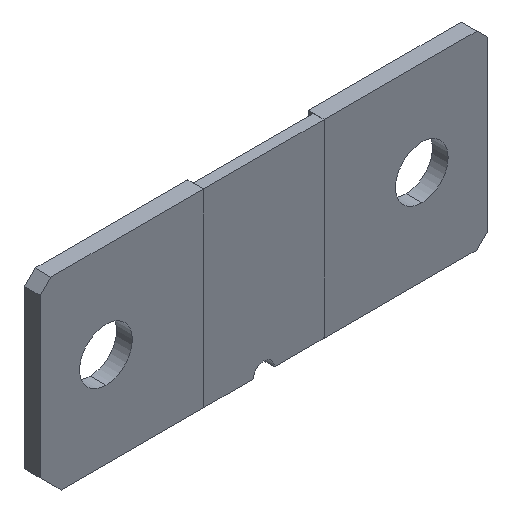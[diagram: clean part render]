
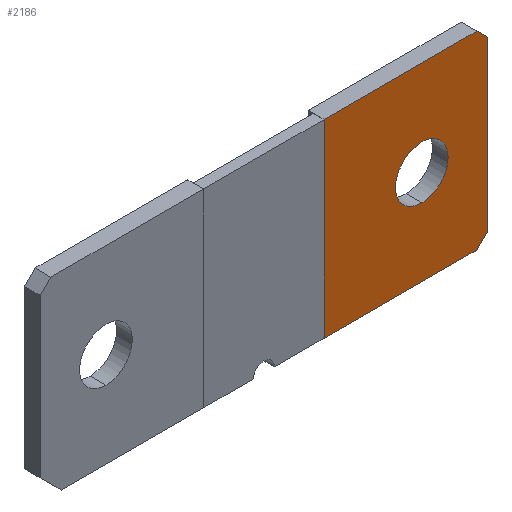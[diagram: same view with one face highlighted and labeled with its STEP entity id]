
A CAD part, isometric view. The second image highlights one B-rep face of the part: STEP entity #2186.
In plain terms, the highlighted planar face has unit normal (0, -1, 0).
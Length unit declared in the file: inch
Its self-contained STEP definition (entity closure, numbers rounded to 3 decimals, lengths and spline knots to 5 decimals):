
#18 = CARTESIAN_POINT ( 'NONE',  ( -0.81274, 0., 0.94989 ) ) ;
#50 = CARTESIAN_POINT ( 'NONE',  ( 0., 0., 0. ) ) ;
#54 = CARTESIAN_POINT ( 'NONE',  ( 0.33126, 0., -0.46711 ) ) ;
#55 = VECTOR ( 'NONE', #367, 39.37008 ) ;
#134 = LINE ( 'NONE', #693, #2042 ) ;
#147 = EDGE_CURVE ( 'NONE', #1772, #431, #134, .T. ) ;
#154 = CARTESIAN_POINT ( 'NONE',  ( 0.41026, 0., 0.87089 ) ) ;
#156 = LINE ( 'NONE', #2142, #1382 ) ;
#165 = DIRECTION ( 'NONE',  ( 0., 1., 0. ) ) ;
#320 = ORIENTED_EDGE ( 'NONE', *, *, #1872, .F. ) ;
#338 = CIRCLE ( 'NONE', #1545, 0.197 ) ;
#342 = CARTESIAN_POINT ( 'NONE',  ( 0.33126, 0., 0.94989 ) ) ;
#367 = DIRECTION ( 'NONE',  ( -0.707, 0., -0.707 ) ) ;
#393 = ORIENTED_EDGE ( 'NONE', *, *, #1289, .F. ) ;
#431 = VERTEX_POINT ( 'NONE', #18 ) ;
#467 = AXIS2_PLACEMENT_3D ( 'NONE', #50, #544, #1270 ) ;
#491 = VECTOR ( 'NONE', #2147, 39.37008 ) ;
#508 = CARTESIAN_POINT ( 'NONE',  ( -0.08174, 0., 0.24139 ) ) ;
#521 = DIRECTION ( 'NONE',  ( 0., 0., 1. ) ) ;
#544 = DIRECTION ( 'NONE',  ( 0., 1., 0. ) ) ;
#626 = DIRECTION ( 'NONE',  ( 0., 0., 1. ) ) ;
#664 = CARTESIAN_POINT ( 'NONE',  ( 0.41026, 0., 0.87089 ) ) ;
#672 = DIRECTION ( 'NONE',  ( 0.707, 0., -0.707 ) ) ;
#693 = CARTESIAN_POINT ( 'NONE',  ( -0.81274, 0., -0.46711 ) ) ;
#727 = ORIENTED_EDGE ( 'NONE', *, *, #899, .T. ) ;
#761 = CARTESIAN_POINT ( 'NONE',  ( -0.08174, 0., 0.04439 ) ) ;
#849 = EDGE_LOOP ( 'NONE', ( #2237, #727 ) ) ;
#899 = EDGE_CURVE ( 'NONE', #955, #1980, #338, .T. ) ;
#955 = VERTEX_POINT ( 'NONE', #761 ) ;
#995 = EDGE_LOOP ( 'NONE', ( #1072, #320, #2212, #1334, #2310, #393 ) ) ;
#1071 = CARTESIAN_POINT ( 'NONE',  ( -0.81274, 0., -0.46711 ) ) ;
#1072 = ORIENTED_EDGE ( 'NONE', *, *, #147, .F. ) ;
#1106 = LINE ( 'NONE', #1814, #1623 ) ;
#1114 = DIRECTION ( 'NONE',  ( 1., 0., 0. ) ) ;
#1191 = DIRECTION ( 'NONE',  ( 0., 0., 1. ) ) ;
#1270 = DIRECTION ( 'NONE',  ( 0., 0., 1. ) ) ;
#1280 = CIRCLE ( 'NONE', #1317, 0.197 ) ;
#1289 = EDGE_CURVE ( 'NONE', #431, #1911, #1106, .T. ) ;
#1317 = AXIS2_PLACEMENT_3D ( 'NONE', #508, #165, #521 ) ;
#1334 = ORIENTED_EDGE ( 'NONE', *, *, #1634, .F. ) ;
#1382 = VECTOR ( 'NONE', #2306, 39.37008 ) ;
#1384 = VERTEX_POINT ( 'NONE', #54 ) ;
#1445 = FACE_BOUND ( 'NONE', #849, .T. ) ;
#1469 = VERTEX_POINT ( 'NONE', #1930 ) ;
#1545 = AXIS2_PLACEMENT_3D ( 'NONE', #1898, #1712, #626 ) ;
#1571 = LINE ( 'NONE', #154, #1905 ) ;
#1578 = VERTEX_POINT ( 'NONE', #664 ) ;
#1603 = FACE_OUTER_BOUND ( 'NONE', #995, .T. ) ;
#1623 = VECTOR ( 'NONE', #1114, 39.37008 ) ;
#1634 = EDGE_CURVE ( 'NONE', #1578, #1469, #2134, .T. ) ;
#1712 = DIRECTION ( 'NONE',  ( 0., 1., 0. ) ) ;
#1772 = VERTEX_POINT ( 'NONE', #1071 ) ;
#1810 = CARTESIAN_POINT ( 'NONE',  ( 0.41026, 0., -0.38811 ) ) ;
#1814 = CARTESIAN_POINT ( 'NONE',  ( -0.81274, 0., 0.94989 ) ) ;
#1872 = EDGE_CURVE ( 'NONE', #1384, #1772, #156, .T. ) ;
#1898 = CARTESIAN_POINT ( 'NONE',  ( -0.08174, 0., 0.24139 ) ) ;
#1905 = VECTOR ( 'NONE', #672, 39.37008 ) ;
#1911 = VERTEX_POINT ( 'NONE', #342 ) ;
#1926 = EDGE_CURVE ( 'NONE', #1980, #955, #1280, .T. ) ;
#1930 = CARTESIAN_POINT ( 'NONE',  ( 0.41026, 0., -0.38811 ) ) ;
#1948 = CARTESIAN_POINT ( 'NONE',  ( -0.08174, 0., 0.43839 ) ) ;
#1963 = CARTESIAN_POINT ( 'NONE',  ( 0.33126, 0., -0.46711 ) ) ;
#1976 = EDGE_CURVE ( 'NONE', #1911, #1578, #1571, .T. ) ;
#1980 = VERTEX_POINT ( 'NONE', #1948 ) ;
#2034 = LINE ( 'NONE', #1963, #55 ) ;
#2042 = VECTOR ( 'NONE', #1191, 39.37008 ) ;
#2083 = EDGE_CURVE ( 'NONE', #1469, #1384, #2034, .T. ) ;
#2134 = LINE ( 'NONE', #1810, #491 ) ;
#2142 = CARTESIAN_POINT ( 'NONE',  ( -0.81274, 0., -0.46711 ) ) ;
#2147 = DIRECTION ( 'NONE',  ( 0., 0., -1. ) ) ;
#2186 = ADVANCED_FACE ( 'NONE', ( #1445, #1603 ), #2211, .F. ) ;
#2211 = PLANE ( 'NONE',  #467 ) ;
#2212 = ORIENTED_EDGE ( 'NONE', *, *, #2083, .F. ) ;
#2237 = ORIENTED_EDGE ( 'NONE', *, *, #1926, .T. ) ;
#2306 = DIRECTION ( 'NONE',  ( -1., 0., 0. ) ) ;
#2310 = ORIENTED_EDGE ( 'NONE', *, *, #1976, .F. ) ;
